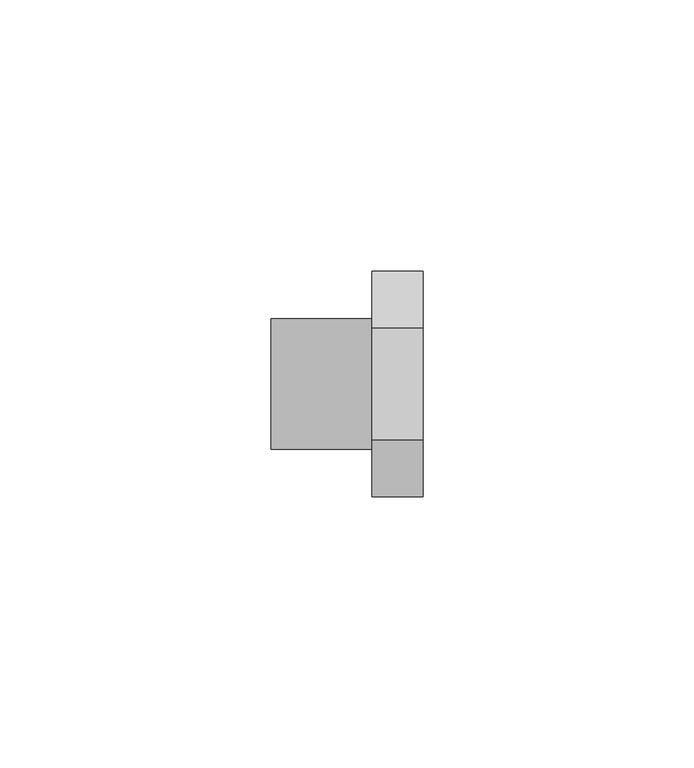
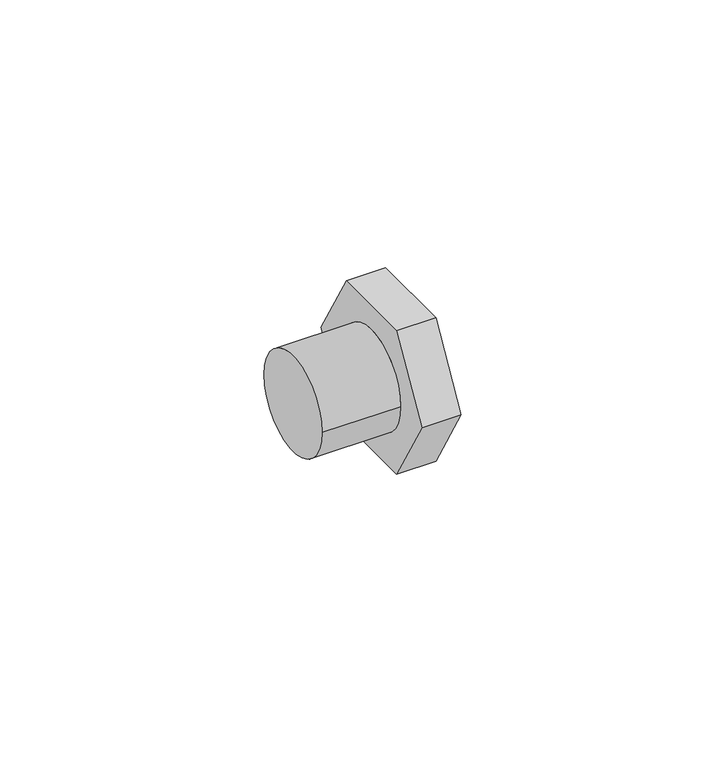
"""IFC4 building model written with IfcOpenShell, lengths in millimetres: pipe fitting geometry, 01011011 : Bouchons M."""

from ifc_helpers import new_model, si_unit, point, frame, origin, origin_2d, place, context, project, spatial, circle_curve, trimmed, segment, composite_curve, outline, extrude, source, transform, mapped, element, save
from ifc_brep_helpers import plane_surface, cylinder_surface, advanced_brep


def pipe_fitting_3f0ac3a4(model_context):
    return source(origin(), model_context, "Body", "SolidModel", [
        extrude(outline(composite_curve([segment(trimmed(circle_curve(origin_2d(), 12.025), [point((-12.025, 0.0))], [point((12.025, 0.0))], False, "CARTESIAN"), True, "CONTINUOUS"), segment(trimmed(circle_curve(origin_2d(), 12.025), [point((12.025, 0.0))], [point((-12.025, 0.0))], False, "CARTESIAN"), True, "CONTINUOUS")], self_intersect=False)), frame((0.0, 0.0, 0.0), z_axis=(1.0, 0.0, 0.0), x_axis=(0.0, 1.0, 0.0)), (0.0, 0.0, 1.0), 18.6666667),
        advanced_brep(
        [(28.0, -10.3923048, 18.0), (28.0, -20.7846097, 0.0), (28.0, -10.3923048, -18.0), (28.0, 10.3923048, -18.0), (28.0, 20.7846097, 0.0), (28.0, 10.3923048, 18.0), (18.6666667, -10.3923048, 18.0), (18.6666667, 10.3923048, 18.0), (18.6666667, 20.7846097, 0.0), (18.6666667, 10.3923048, -18.0), (18.6666667, -10.3923048, -18.0), (18.6666667, -20.7846097, 0.0), (18.6666667, 12.025, 0.0), (18.6666667, -12.025, 0.0), (0.0, -12.025, 0.0), (0.0, 12.025, 0.0)],
        [
            (0, 1),
            (1, 2),
            (2, 3),
            (3, 4),
            (4, 5),
            (5, 0),
            (6, 7),
            (7, 8),
            (8, 9),
            (9, 10),
            (10, 11),
            (11, 6),
            (12, 13, circle_curve(frame((18.6666667, 0.0, 0.0), z_axis=(1.0, 0.0, 0.0), x_axis=(0.0, 1.0, 0.0)), 12.025)),
            (13, 12, circle_curve(frame((18.6666667, 0.0, 0.0), z_axis=(1.0, 0.0, 0.0), x_axis=(0.0, 1.0, 0.0)), 12.025)),
            (0, 6),
            (11, 1),
            (10, 2),
            (9, 3),
            (8, 4),
            (7, 5),
            (14, 15, circle_curve(frame((0.0, 0.0, 0.0), z_axis=(-1.0, 0.0, 0.0), x_axis=(0.0, 1.0, 0.0)), 12.025)),
            (15, 14, circle_curve(frame((0.0, 0.0, 0.0), z_axis=(-1.0, 0.0, 0.0), x_axis=(0.0, 1.0, 0.0)), 12.025)),
            (14, 13),
            (12, 15),
        ],
        [
            plane_surface(frame((28.0, -10.3923048, 18.0), z_axis=(1.0, 0.0, 0.0), x_axis=(0.0, -0.5000000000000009, -0.8660254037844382))),
            plane_surface(frame((18.6666667, -10.3923048, 18.0), z_axis=(-1.0, 0.0, 0.0), x_axis=(0.0, 0.5000000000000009, 0.8660254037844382))),
            plane_surface(frame((28.0, -10.3923048, 18.0), z_axis=(0.0, -0.8660254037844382, 0.5000000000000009), x_axis=(-1.0, 0.0, 0.0))),
            plane_surface(frame((28.0, -20.7846097, 0.0), z_axis=(0.0, -0.8660254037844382, -0.500000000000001), x_axis=(-1.0, 0.0, 0.0))),
            plane_surface(frame((28.0, -10.3923048, -18.0), z_axis=(0.0, 0.0, -1.0), x_axis=(-1.0, 0.0, 0.0))),
            plane_surface(frame((28.0, 10.3923048, -18.0), z_axis=(0.0, 0.8660254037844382, -0.500000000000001), x_axis=(-1.0, 0.0, 0.0))),
            plane_surface(frame((28.0, 20.7846097, 0.0), z_axis=(0.0, 0.866025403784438, 0.500000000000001), x_axis=(-1.0, 0.0, 0.0))),
            plane_surface(frame((28.0, 10.3923048, 18.0), z_axis=(0.0, 0.0, 1.0), x_axis=(-1.0, 0.0, 0.0))),
            plane_surface(frame((0.0, 0.0, 0.0), z_axis=(-1.0, 0.0, 0.0), x_axis=(0.0, 0.0, 1.0))),
            cylinder_surface(frame((0.0, 0.0, 0.0), z_axis=(-1.0, 0.0, 0.0), x_axis=(0.0, 1.0, 0.0)), 12.025),
        ],
        [
            (0, [[1, 2, 3, 4, 5, 6]]),
            (1, [[7, 8, 9, 10, 11, 12], [13, 14]]),
            (2, [[-1, 15, -12, 16]]),
            (3, [[-2, -16, -11, 17]]),
            (4, [[-3, -17, -10, 18]]),
            (5, [[-4, -18, -9, 19]]),
            (6, [[-5, -19, -8, 20]]),
            (7, [[-6, -20, -7, -15]]),
            (8, [[21, 22]]),
            (9, [[-21, 23, -13, 24]]),
            (9, [[-22, -24, -14, -23]]),
        ],
    ),
    ])


if __name__ == "__main__":
    model = new_model("IFC4")
    model_context = context("Model", 3, world=origin())
    ifc_project = project(units=[si_unit("LENGTHUNIT", "METRE", prefix="MILLI")], contexts=[model_context])
    site = spatial("IfcSite", under=ifc_project)
    building = spatial("IfcBuilding", under=site)
    placement = place(None, origin())
    pipe_fitting_shape = pipe_fitting_3f0ac3a4(model_context)
    element("IfcPipeFitting", 1, ObjectType="01011011 : Bouchons M", at=placement, inside=building, context=model_context, shape_type="MappedRepresentation", body=[
        mapped(pipe_fitting_shape, transform((0.0, 0.0, 0.0), x_axis=(1.0, 0.0, 0.0), y_axis=(0.0, 1.0, 0.0), z_axis=(0.0, 0.0, 1.0))),
    ])
    save(model, "model.ifc")
